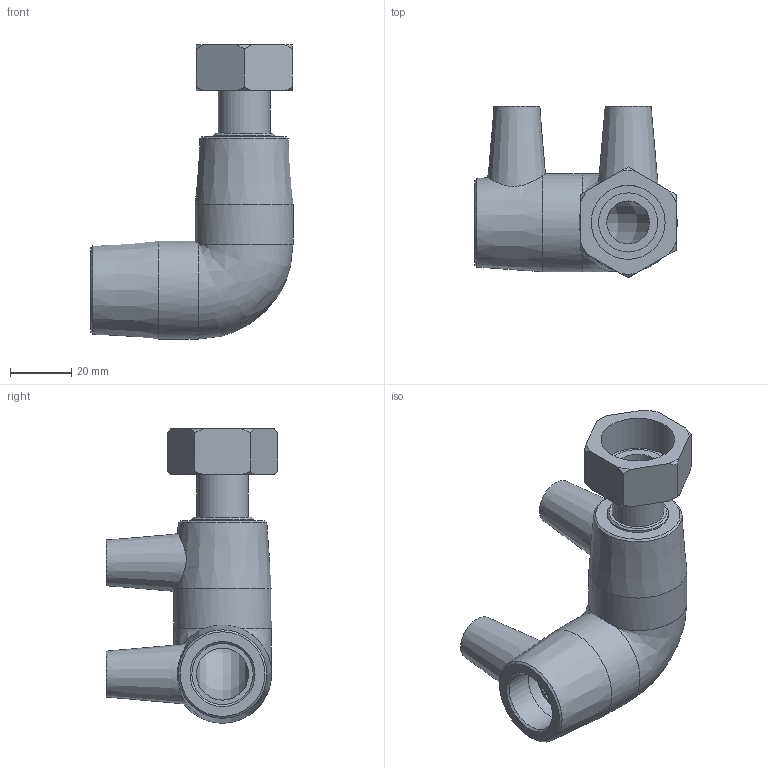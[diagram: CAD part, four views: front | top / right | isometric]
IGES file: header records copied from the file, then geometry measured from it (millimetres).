
Global section: file name: 494504020007.ipt; native system: Autodesk Inventor 2015; preprocessor: unknown; author: KIM; date: 20180426.120804; units: millimetre
Bounding box: 65.96 x 56.09 x 95.99 mm (x, y, z)
Volume: 67213.5 mm3; surface area: 24877.4 mm2
Topology: 1 solids, 2 shells, 63 faces, 148 edges, 98 vertices
Faces by surface type: plane 23, cone 19, revolution 12, cylinder 8, bspline 1
Full cylindrical faces by diameter (mm): 4 x2, 16.882 x1, 19.294 x1, 20 x2, 32 x2
